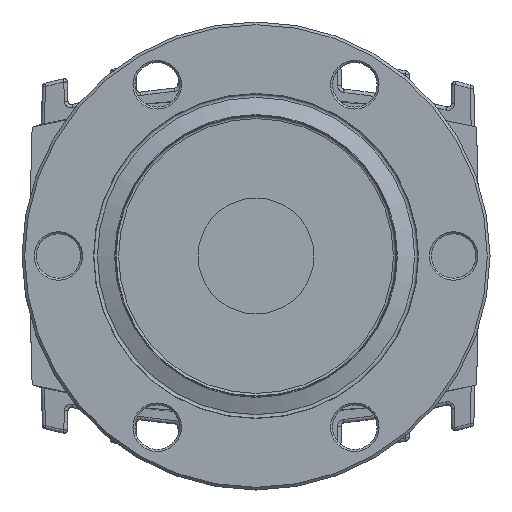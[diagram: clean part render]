
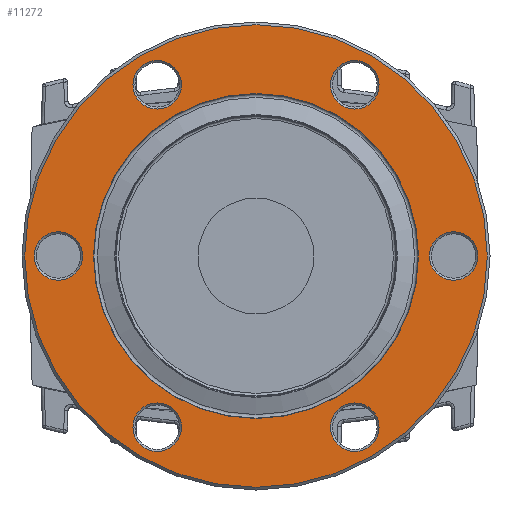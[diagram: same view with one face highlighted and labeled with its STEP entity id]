
A CAD part, front view. The second image highlights one B-rep face of the part: STEP entity #11272.
In plain terms, the highlighted planar face has unit normal (0, -1, 0).
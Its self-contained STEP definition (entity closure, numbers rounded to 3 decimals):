
#10655=CARTESIAN_POINT('',(-24.125,-41.6,0.));
#10656=VERTEX_POINT('',#10655);
#10657=CARTESIAN_POINT('',(0.,-41.6,0.));
#10658=DIRECTION('',(0.0,1.0,0.0));
#10659=DIRECTION('',(1.0,0.0,0.0));
#10660=AXIS2_PLACEMENT_3D('',#10657,#10658,#10659);
#10661=CIRCLE('',#10660,24.125);
#10662=EDGE_CURVE('',#10656,#10656,#10661,.T.);
#10823=CARTESIAN_POINT('',(34.35,-41.6,0.));
#10824=VERTEX_POINT('',#10823);
#10825=CARTESIAN_POINT('',(0.,-41.6,0.));
#10826=DIRECTION('',(0.0,1.0,0.0));
#10827=DIRECTION('',(-1.0,0.0,0.0));
#10828=AXIS2_PLACEMENT_3D('',#10825,#10826,#10827);
#10829=CIRCLE('',#10828,34.35);
#10830=EDGE_CURVE('',#10824,#10824,#10829,.T.);
#11028=CARTESIAN_POINT('',(-18.275,-41.6,-25.418));
#11029=VERTEX_POINT('',#11028);
#11030=CARTESIAN_POINT('',(-14.675,-41.6,-25.418));
#11031=DIRECTION('',(0.0,-1.0,0.0));
#11032=DIRECTION('',(1.0,0.0,0.0));
#11033=AXIS2_PLACEMENT_3D('',#11030,#11031,#11032);
#11034=CIRCLE('',#11033,3.6);
#11035=EDGE_CURVE('',#11029,#11029,#11034,.T.);
#11068=CARTESIAN_POINT('',(11.075,-41.6,-25.418));
#11069=VERTEX_POINT('',#11068);
#11070=CARTESIAN_POINT('',(14.675,-41.6,-25.418));
#11071=DIRECTION('',(0.0,-1.0,0.0));
#11072=DIRECTION('',(1.0,0.0,0.0));
#11073=AXIS2_PLACEMENT_3D('',#11070,#11071,#11072);
#11074=CIRCLE('',#11073,3.6);
#11075=EDGE_CURVE('',#11069,#11069,#11074,.T.);
#11108=CARTESIAN_POINT('',(25.75,-41.6,0.));
#11109=VERTEX_POINT('',#11108);
#11110=CARTESIAN_POINT('',(29.35,-41.6,0.));
#11111=DIRECTION('',(0.0,-1.0,0.0));
#11112=DIRECTION('',(1.0,0.0,0.0));
#11113=AXIS2_PLACEMENT_3D('',#11110,#11111,#11112);
#11114=CIRCLE('',#11113,3.6);
#11115=EDGE_CURVE('',#11109,#11109,#11114,.T.);
#11148=CARTESIAN_POINT('',(11.075,-41.6,25.418));
#11149=VERTEX_POINT('',#11148);
#11150=CARTESIAN_POINT('',(14.675,-41.6,25.418));
#11151=DIRECTION('',(0.0,-1.0,0.0));
#11152=DIRECTION('',(1.0,0.0,0.0));
#11153=AXIS2_PLACEMENT_3D('',#11150,#11151,#11152);
#11154=CIRCLE('',#11153,3.6);
#11155=EDGE_CURVE('',#11149,#11149,#11154,.T.);
#11188=CARTESIAN_POINT('',(-18.275,-41.6,25.418));
#11189=VERTEX_POINT('',#11188);
#11190=CARTESIAN_POINT('',(-14.675,-41.6,25.418));
#11191=DIRECTION('',(0.0,-1.0,0.0));
#11192=DIRECTION('',(1.0,0.0,0.0));
#11193=AXIS2_PLACEMENT_3D('',#11190,#11191,#11192);
#11194=CIRCLE('',#11193,3.6);
#11195=EDGE_CURVE('',#11189,#11189,#11194,.T.);
#11228=CARTESIAN_POINT('',(-32.95,-41.6,0.));
#11229=VERTEX_POINT('',#11228);
#11230=CARTESIAN_POINT('',(-29.35,-41.6,0.));
#11231=DIRECTION('',(0.0,-1.0,0.0));
#11232=DIRECTION('',(1.0,0.0,0.0));
#11233=AXIS2_PLACEMENT_3D('',#11230,#11231,#11232);
#11234=CIRCLE('',#11233,3.6);
#11235=EDGE_CURVE('',#11229,#11229,#11234,.T.);
#11243=CARTESIAN_POINT('',(29.438,-41.6,0.));
#11244=DIRECTION('',(0.0,-1.0,0.0));
#11245=DIRECTION('',(0.0,0.0,-1.0));
#11246=AXIS2_PLACEMENT_3D('',#11243,#11244,#11245);
#11247=PLANE('',#11246);
#11248=ORIENTED_EDGE('',*,*,#10830,.F.);
#11249=EDGE_LOOP('',(#11248));
#11250=FACE_OUTER_BOUND('',#11249,.T.);
#11251=ORIENTED_EDGE('',*,*,#11195,.F.);
#11252=EDGE_LOOP('',(#11251));
#11253=FACE_BOUND('',#11252,.T.);
#11254=ORIENTED_EDGE('',*,*,#11115,.F.);
#11255=EDGE_LOOP('',(#11254));
#11256=FACE_BOUND('',#11255,.T.);
#11257=ORIENTED_EDGE('',*,*,#11035,.F.);
#11258=EDGE_LOOP('',(#11257));
#11259=FACE_BOUND('',#11258,.T.);
#11260=ORIENTED_EDGE('',*,*,#10662,.T.);
#11261=EDGE_LOOP('',(#11260));
#11262=FACE_BOUND('',#11261,.T.);
#11263=ORIENTED_EDGE('',*,*,#11075,.F.);
#11264=EDGE_LOOP('',(#11263));
#11265=FACE_BOUND('',#11264,.T.);
#11266=ORIENTED_EDGE('',*,*,#11155,.F.);
#11267=EDGE_LOOP('',(#11266));
#11268=FACE_BOUND('',#11267,.T.);
#11269=ORIENTED_EDGE('',*,*,#11235,.F.);
#11270=EDGE_LOOP('',(#11269));
#11271=FACE_BOUND('',#11270,.T.);
#11272=ADVANCED_FACE('',(#11250,#11253,#11256,#11259,#11262,#11265,#11268,#11271),#11247,.T.);
